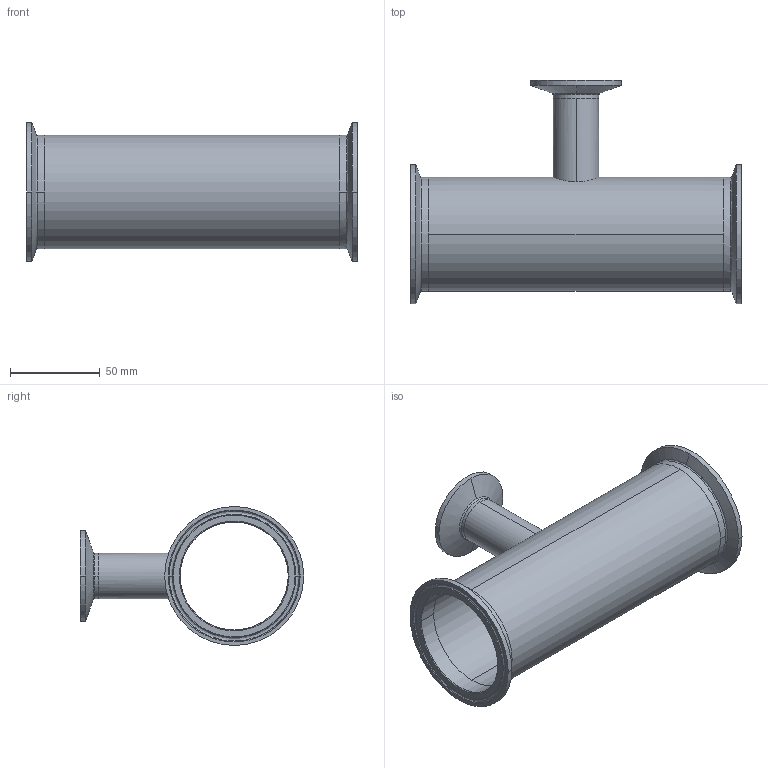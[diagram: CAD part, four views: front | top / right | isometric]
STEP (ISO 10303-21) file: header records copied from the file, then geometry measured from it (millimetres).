
FILE_DESCRIPTION (( 'STEP AP214' ), '1' );
FILE_NAME ('TEG7R6L2.5x1.0-...STEP', '2016-05-24T06:52:00', ( 'eran' ), ( '' ), 'SwSTEP 2.0', 'SolidWorks 2016', '' );
FILE_SCHEMA (( 'AUTOMOTIVE_DESIGN' ));
Length unit declared in the file: millimetre
Products named in the file (1): TEG7R6L2.5x1.0-..
Bounding box: 184.2 x 124.4 x 77.39 mm (x, y, z)
Volume: 84217.5 mm3; surface area: 90002.7 mm2
Topology: 4 solids, 4 shells, 86 faces, 214 edges, 140 vertices
Faces by surface type: bspline 30, cylinder 26, cone 18, plane 12
Entity records: 4735 total; most frequent: CARTESIAN_POINT 2621, DIRECTION 454, ORIENTED_EDGE 428, EDGE_CURVE 214, AXIS2_PLACEMENT_3D 205, CIRCLE 148, VERTEX_POINT 140, EDGE_LOOP 100
